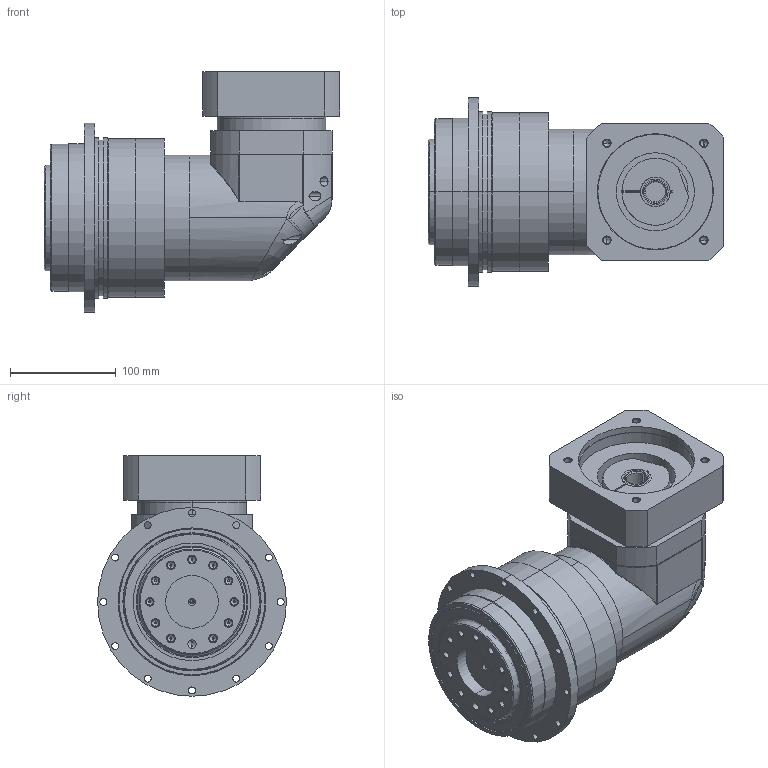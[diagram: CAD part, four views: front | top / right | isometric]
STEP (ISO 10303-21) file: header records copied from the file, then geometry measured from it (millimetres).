
FILE_DESCRIPTION (( 'STEP AP203' ), '1' );
FILE_NAME ('ADR140-L2-19-110-130-M8.STEP', '2024-05-08T07:04:48', ( '' ), ( '' ), 'SwSTEP 2.0', 'SolidWorks 2015', '' );
FILE_SCHEMA (( 'CONFIG_CONTROL_DESIGN' ));
Length unit declared in the file: millimetre
Products named in the file (1): ADR140-L2-19-110-130-M8
Bounding box: 280.5 x 179 x 228 mm (x, y, z)
Volume: 3782806.1 mm3; surface area: 447659 mm2
Topology: 10 solids, 11 shells, 562 faces, 1327 edges, 797 vertices
Faces by surface type: cylinder 222, cone 152, plane 94, bspline 88, torus 6
Entity records: 25016 total; most frequent: CARTESIAN_POINT 12578, ORIENTED_EDGE 2586, DIRECTION 2488, EDGE_CURVE 1293, AXIS2_PLACEMENT_3D 1019, VERTEX_POINT 797, EDGE_LOOP 680, FACE_OUTER_BOUND 562
